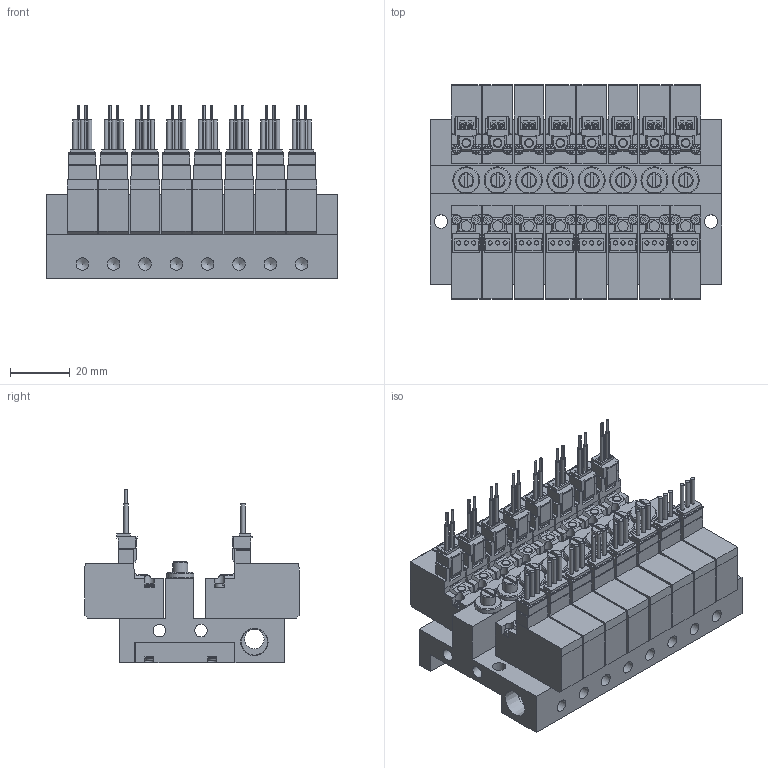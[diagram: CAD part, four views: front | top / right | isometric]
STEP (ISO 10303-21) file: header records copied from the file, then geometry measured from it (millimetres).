
FILE_DESCRIPTION(('STEP AP203'),'1');
FILE_NAME('1-L-4EZ-M08.stp','2025-05-09T01:29:25',(' '),(' '),'Spatial InterOp 3D',' ',' ');
FILE_SCHEMA(('CONFIG_CONTROL_DESIGN'));
Length unit declared in the file: millimetre
Products named in the file (90): PV1※1-L-4EZ-M08; BODY; PLATE; NEEDLE; BOLT; SOLENOID VALVE VOLTAGE PV; 42; 45; 48; 51; SOLENOID VALVE PV101-W
Assembly tree (89 placements, depth 3):
  PV1※1-L-4EZ-M08
    BODY
    PLATE
    PLATE
    NEEDLE
    BOLT
    BOLT
    BOLT
    BOLT
    BOLT
    BOLT
    SOLENOID VALVE VOLTAGE PV
      42
      45
      48
      51
    NEEDLE
    SOLENOID VALVE VOLTAGE PV
      42
      45
      48
      51
    NEEDLE
    SOLENOID VALVE VOLTAGE PV
      42
      45
      48
      51
    PLATE
    BOLT
    BOLT
    BOLT
    PLATE
    BOLT
    BOLT
    BOLT
    NEEDLE
    SOLENOID VALVE VOLTAGE PV
      42
      45
      48
      51
    NEEDLE
    SOLENOID VALVE VOLTAGE PV
      42
      45
      48
      51
    PLATE
    BOLT
    BOLT
    BOLT
    SOLENOID VALVE VOLTAGE PV
      42
      45
      48
      51
    NEEDLE
    PLATE
    BOLT
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Bounding box: 97.5 x 71.8 x 58.25 mm (x, y, z)
Volume: 164728.6 mm3; surface area: 84152.7 mm2
Topology: 81 solids, 81 shells, 3113 faces, 8694 edges, 5929 vertices
Faces by surface type: plane 2312, cylinder 543, torus 128, bspline 80, cone 50
Full cylindrical faces by diameter (mm): 1.4 x24, 2 x24, 3 x40, 3.5 x8, 4.2 x18, 4.5 x2, 5 x8, 6.5 x1, 8.797 x2, 9 x8
Entity records: 104194 total; most frequent: CARTESIAN_POINT 18967, DIRECTION 16882, ORIENTED_EDGE 16680, EDGE_CURVE 8340, VERTEX_POINT 5800, LINE 5676, VECTOR 5676, AXIS2_PLACEMENT_3D 5603
